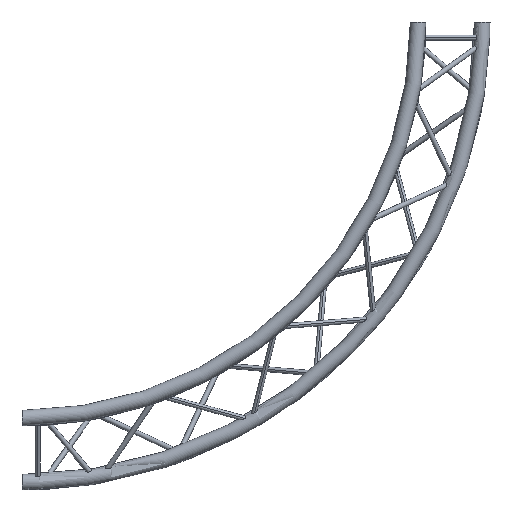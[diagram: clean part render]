
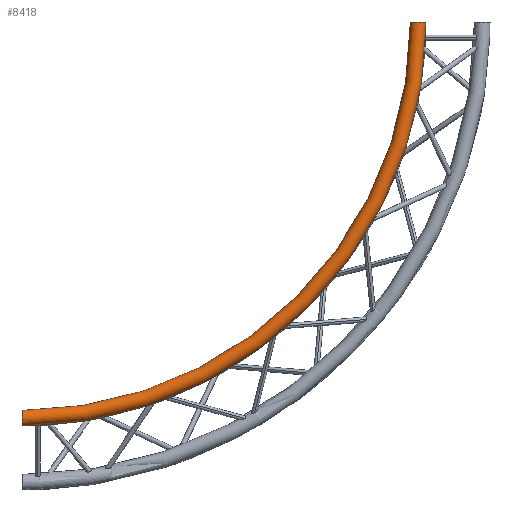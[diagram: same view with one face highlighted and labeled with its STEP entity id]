
A CAD part, front view. The second image highlights one B-rep face of the part: STEP entity #8418.
In plain terms, the highlighted toroidal (fillet/blend) face has major radius 1269.75 mm and minor radius 25 mm.
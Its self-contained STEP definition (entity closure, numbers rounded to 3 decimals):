
#1943 = DIRECTION ( 'NONE',  ( 0., 0., -1. ) ) ;
#1944 = DIRECTION ( 'NONE',  ( 0., -1., 0. ) ) ;
#1945 = CARTESIAN_POINT ( 'NONE',  ( 0., -118.5, 0. ) ) ;
#1946 = AXIS2_PLACEMENT_3D ( 'NONE', #1945, #1944, #1943 ) ;
#1947 = CIRCLE ( 'NONE', #1946, 1244.752 ) ;
#2888 = DIRECTION ( 'NONE',  ( 1., 0., 0. ) ) ;
#2889 = DIRECTION ( 'NONE',  ( 0., 0., 1. ) ) ;
#2890 = CARTESIAN_POINT ( 'NONE',  ( 1269.752, -118.5, 0. ) ) ;
#2891 = AXIS2_PLACEMENT_3D ( 'NONE', #2890, #2889, #2888 ) ;
#2892 = CIRCLE ( 'NONE', #2891, 25. ) ;
#2906 = CARTESIAN_POINT ( 'NONE',  ( 0., -118.5, -1294.752 ) ) ;
#2925 = DIRECTION ( 'NONE',  ( 0., 0., -1. ) ) ;
#2926 = DIRECTION ( 'NONE',  ( 0., -1., 0. ) ) ;
#2927 = AXIS2_PLACEMENT_3D ( 'NONE', #2928, #2926, #2925 ) ;
#2928 = CARTESIAN_POINT ( 'NONE',  ( 0., -118.5, 0. ) ) ;
#2929 = TOROIDAL_SURFACE ( 'NONE', #2927, 1269.752, 25. ) ;
#2930 = FACE_OUTER_BOUND ( 'NONE', #8413, .T. ) ;
#2931 = DIRECTION ( 'NONE',  ( 0., 0., -1. ) ) ;
#2932 = DIRECTION ( 'NONE',  ( 1., 0., 0. ) ) ;
#2933 = CARTESIAN_POINT ( 'NONE',  ( 0., -118.5, -1269.752 ) ) ;
#2934 = AXIS2_PLACEMENT_3D ( 'NONE', #2933, #2932, #2931 ) ;
#2935 = CIRCLE ( 'NONE', #2934, 25. ) ;
#2937 = CARTESIAN_POINT ( 'NONE',  ( 1294.752, -118.5, 0. ) ) ;
#2938 = CARTESIAN_POINT ( 'NONE',  ( 0., -118.5, -1244.752 ) ) ;
#2939 = CARTESIAN_POINT ( 'NONE',  ( 1244.752, -118.5, 0. ) ) ;
#2940 = DIRECTION ( 'NONE',  ( 0., 0., -1. ) ) ;
#2941 = DIRECTION ( 'NONE',  ( 0., -1., 0. ) ) ;
#2942 = CARTESIAN_POINT ( 'NONE',  ( 0., -118.5, 0. ) ) ;
#2943 = AXIS2_PLACEMENT_3D ( 'NONE', #2942, #2941, #2940 ) ;
#2944 = CIRCLE ( 'NONE', #2943, 1294.752 ) ;
#8196 = ORIENTED_EDGE ( 'NONE', *, *, #8197, .F. ) ;
#8197 = EDGE_CURVE ( 'NONE', #8411, #8410, #1947, .T. ) ;
#8401 = VERTEX_POINT ( 'NONE', #2906 ) ;
#8403 = ORIENTED_EDGE ( 'NONE', *, *, #8409, .T. ) ;
#8405 = ORIENTED_EDGE ( 'NONE', *, *, #8406, .F. ) ;
#8406 = EDGE_CURVE ( 'NONE', #8410, #8412, #2892, .T. ) ;
#8407 = ORIENTED_EDGE ( 'NONE', *, *, #8415, .T. ) ;
#8409 = EDGE_CURVE ( 'NONE', #8401, #8412, #2944, .T. ) ;
#8410 = VERTEX_POINT ( 'NONE', #2939 ) ;
#8411 = VERTEX_POINT ( 'NONE', #2938 ) ;
#8412 = VERTEX_POINT ( 'NONE', #2937 ) ;
#8413 = EDGE_LOOP ( 'NONE', ( #8407, #8403, #8405, #8196 ) ) ;
#8415 = EDGE_CURVE ( 'NONE', #8411, #8401, #2935, .T. ) ;
#8418 = ADVANCED_FACE ( 'NONE', ( #2930 ), #2929, .T. ) ;
